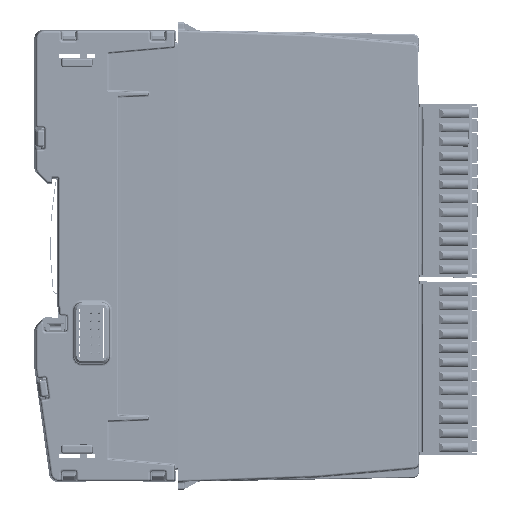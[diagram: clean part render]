
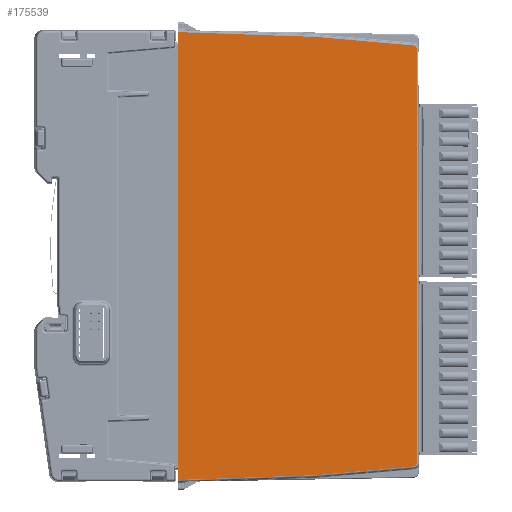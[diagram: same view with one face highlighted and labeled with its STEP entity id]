
A CAD part, left-side view. The second image highlights one B-rep face of the part: STEP entity #175539.
In plain terms, the highlighted planar face has unit normal (-1, -0.018, 0).
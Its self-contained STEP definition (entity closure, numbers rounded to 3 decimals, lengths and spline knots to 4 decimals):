
#5772=ELLIPSE('',#188522,0.0315,0.0315);
#5773=ELLIPSE('',#188523,0.0315,0.0315);
#9543=PLANE('',#188521);
#17412=FACE_OUTER_BOUND('',#27167,.T.);
#27167=EDGE_LOOP('',(#141712,#141713,#141714,#141715,#141716,#141717,#141718,
#141719,#141720,#141721));
#47983=LINE('',#290473,#65217);
#47984=LINE('',#290475,#65218);
#47985=LINE('',#290477,#65219);
#47986=LINE('',#290479,#65220);
#47987=LINE('',#290481,#65221);
#47988=LINE('',#290485,#65222);
#47989=LINE('',#290489,#65223);
#47990=LINE('',#290490,#65224);
#65217=VECTOR('',#222885,39.3701);
#65218=VECTOR('',#222886,39.3701);
#65219=VECTOR('',#222887,39.3701);
#65220=VECTOR('',#222888,39.3701);
#65221=VECTOR('',#222889,39.3701);
#65222=VECTOR('',#222892,39.3701);
#65223=VECTOR('',#222895,39.3701);
#65224=VECTOR('',#222896,39.3701);
#81491=VERTEX_POINT('',#290471);
#81492=VERTEX_POINT('',#290472);
#81493=VERTEX_POINT('',#290474);
#81494=VERTEX_POINT('',#290476);
#81495=VERTEX_POINT('',#290478);
#81496=VERTEX_POINT('',#290480);
#81497=VERTEX_POINT('',#290482);
#81498=VERTEX_POINT('',#290484);
#81499=VERTEX_POINT('',#290486);
#81500=VERTEX_POINT('',#290488);
#102572=EDGE_CURVE('',#81491,#81492,#47983,.T.);
#102573=EDGE_CURVE('',#81493,#81492,#47984,.T.);
#102574=EDGE_CURVE('',#81493,#81494,#47985,.T.);
#102575=EDGE_CURVE('',#81494,#81495,#47986,.T.);
#102576=EDGE_CURVE('',#81495,#81496,#47987,.T.);
#102577=EDGE_CURVE('',#81496,#81497,#5772,.T.);
#102578=EDGE_CURVE('',#81497,#81498,#47988,.T.);
#102579=EDGE_CURVE('',#81498,#81499,#5773,.T.);
#102580=EDGE_CURVE('',#81499,#81500,#47989,.T.);
#102581=EDGE_CURVE('',#81500,#81491,#47990,.T.);
#141712=ORIENTED_EDGE('',*,*,#102572,.T.);
#141713=ORIENTED_EDGE('',*,*,#102573,.F.);
#141714=ORIENTED_EDGE('',*,*,#102574,.T.);
#141715=ORIENTED_EDGE('',*,*,#102575,.T.);
#141716=ORIENTED_EDGE('',*,*,#102576,.T.);
#141717=ORIENTED_EDGE('',*,*,#102577,.T.);
#141718=ORIENTED_EDGE('',*,*,#102578,.T.);
#141719=ORIENTED_EDGE('',*,*,#102579,.T.);
#141720=ORIENTED_EDGE('',*,*,#102580,.T.);
#141721=ORIENTED_EDGE('',*,*,#102581,.T.);
#175539=ADVANCED_FACE('',(#17412),#9543,.T.);
#188521=AXIS2_PLACEMENT_3D('',#290470,#222883,#222884);
#188522=AXIS2_PLACEMENT_3D('',#290483,#222890,#222891);
#188523=AXIS2_PLACEMENT_3D('',#290487,#222893,#222894);
#222883=DIRECTION('center_axis',(-1.,-0.017,
0.));
#222884=DIRECTION('ref_axis',(-0.017,1.,0.));
#222885=DIRECTION('',(0.,0.,-1.));
#222886=DIRECTION('',(0.,0.,1.));
#222887=DIRECTION('',(0.,0.,-1.));
#222888=DIRECTION('',(0.017,-0.999,0.035));
#222889=DIRECTION('',(0.017,-0.996,0.087));
#222890=DIRECTION('center_axis',(-1.,-0.017,
0.));
#222891=DIRECTION('ref_axis',(0.017,-1.,0.));
#222892=DIRECTION('',(0.,0.,1.));
#222893=DIRECTION('center_axis',(-1.,-0.017,
0.));
#222894=DIRECTION('ref_axis',(0.017,-1.,0.));
#222895=DIRECTION('',(-0.017,0.996,0.087));
#222896=DIRECTION('',(-0.017,0.999,0.035));
#290470=CARTESIAN_POINT('Origin',(-0.0296,-0.489,
-2.0669));
#290471=CARTESIAN_POINT('',(-0.0227,-0.8827,0.1083));
#290472=CARTESIAN_POINT('',(-0.0227,-0.8827,-0.0312));
#290473=CARTESIAN_POINT('',(-0.0227,-0.8827,0.128));
#290474=CARTESIAN_POINT('',(-0.0227,-0.8827,-4.1027));
#290475=CARTESIAN_POINT('',(-0.0227,-0.8827,-7.5932));
#290476=CARTESIAN_POINT('',(-0.0227,-0.8827,-4.2421));
#290477=CARTESIAN_POINT('',(-0.0227,-0.8827,0.128));
#290478=CARTESIAN_POINT('',(0.0007,-2.2205,-4.1954));
#290479=CARTESIAN_POINT('',(-0.0282,-0.5654,-4.2532));
#290480=CARTESIAN_POINT('',(0.0174,-3.1772,-4.1117));
#290481=CARTESIAN_POINT('',(-0.0261,-0.6869,-4.3296));
#290482=CARTESIAN_POINT('',(0.0179,-3.2059,-4.0803));
#290483=CARTESIAN_POINT('Origin',(0.0173,-3.1744,
-4.0803));
#290484=CARTESIAN_POINT('',(0.0179,-3.2059,-0.0535));
#290485=CARTESIAN_POINT('',(0.0179,-3.2059,-0.0535));
#290486=CARTESIAN_POINT('',(0.0174,-3.1772,-0.0221));
#290487=CARTESIAN_POINT('Origin',(0.0173,-3.1744,
-0.0535));
#290488=CARTESIAN_POINT('',(0.0007,-2.2205,0.0616));
#290489=CARTESIAN_POINT('',(-0.0261,-0.6869,0.1957));
#290490=CARTESIAN_POINT('',(-0.0282,-0.5654,0.1194));
